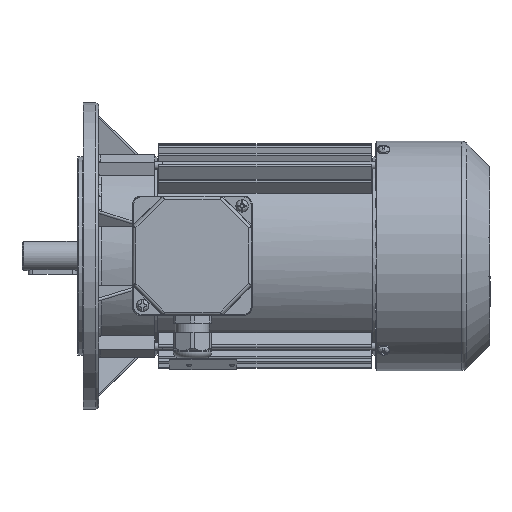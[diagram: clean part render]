
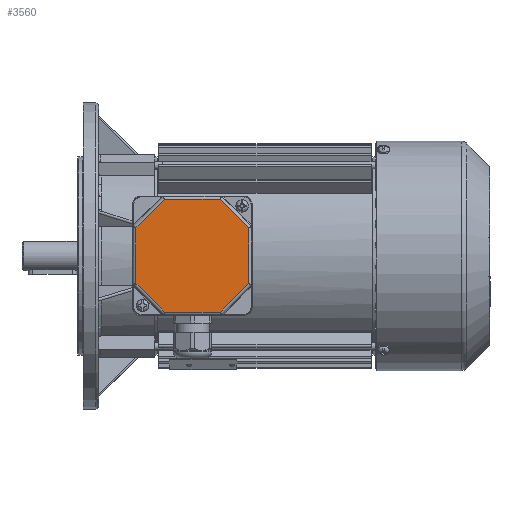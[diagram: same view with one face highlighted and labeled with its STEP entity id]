
A CAD part, top view. The second image highlights one B-rep face of the part: STEP entity #3560.
In plain terms, the highlighted planar face has unit normal (0, 0, 1).
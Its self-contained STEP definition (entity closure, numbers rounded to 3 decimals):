
#3560 = ADVANCED_FACE( '', ( #8300 ), #8301, .T. );
#8300 = FACE_OUTER_BOUND( '', #18097, .T. );
#8301 = PLANE( '', #18098 );
#18097 = EDGE_LOOP( '', ( #37679, #37680, #37681, #37682, #37683, #37684, #37685, #37686 ) );
#18098 = AXIS2_PLACEMENT_3D( '', #37687, #37688, #37689 );
#37679 = ORIENTED_EDGE( '', *, *, #55090, .T. );
#37680 = ORIENTED_EDGE( '', *, *, #54945, .T. );
#37681 = ORIENTED_EDGE( '', *, *, #53496, .T. );
#37682 = ORIENTED_EDGE( '', *, *, #55091, .T. );
#37683 = ORIENTED_EDGE( '', *, *, #55092, .T. );
#37684 = ORIENTED_EDGE( '', *, *, #55093, .T. );
#37685 = ORIENTED_EDGE( '', *, *, #55094, .T. );
#37686 = ORIENTED_EDGE( '', *, *, #55095, .T. );
#37687 = CARTESIAN_POINT( '', ( -39., 39., 12. ) );
#37688 = DIRECTION( '', ( 0., 0., 1. ) );
#37689 = DIRECTION( '', ( 1., 0., 0. ) );
#53496 = EDGE_CURVE( '', #62780, #62781, #62782, .F. );
#54945 = EDGE_CURVE( '', #65252, #62780, #65253, .T. );
#55090 = EDGE_CURVE( '', #65495, #65252, #65496, .F. );
#55091 = EDGE_CURVE( '', #62781, #65497, #65498, .T. );
#55092 = EDGE_CURVE( '', #65497, #65499, #65500, .F. );
#55093 = EDGE_CURVE( '', #65499, #65501, #65502, .T. );
#55094 = EDGE_CURVE( '', #65501, #65503, #65504, .F. );
#55095 = EDGE_CURVE( '', #65503, #65495, #65505, .T. );
#62780 = VERTEX_POINT( '', #75521 );
#62781 = VERTEX_POINT( '', #75522 );
#62782 = LINE( '', #75523, #75524 );
#65252 = VERTEX_POINT( '', #82346 );
#65253 = LINE( '', #82347, #82348 );
#65495 = VERTEX_POINT( '', #82919 );
#65496 = LINE( '', #82920, #82921 );
#65497 = VERTEX_POINT( '', #82922 );
#65498 = LINE( '', #82923, #82924 );
#65499 = VERTEX_POINT( '', #82925 );
#65500 = LINE( '', #82926, #82927 );
#65501 = VERTEX_POINT( '', #82928 );
#65502 = LINE( '', #82929, #82930 );
#65503 = VERTEX_POINT( '', #82931 );
#65504 = LINE( '', #82932, #82933 );
#65505 = LINE( '', #82934, #82935 );
#75521 = CARTESIAN_POINT( '', ( 18.255, 36.825, 12. ) );
#75522 = CARTESIAN_POINT( '', ( -18.255, 36.825, 12. ) );
#75523 = CARTESIAN_POINT( '', ( -19.069, 36.825, 12. ) );
#75524 = VECTOR( '', #101527, 1000. );
#82346 = CARTESIAN_POINT( '', ( 36.825, 18.255, 12. ) );
#82347 = CARTESIAN_POINT( '', ( 17.679, 37.401, 12. ) );
#82348 = VECTOR( '', #103186, 1000. );
#82919 = CARTESIAN_POINT( '', ( 36.825, -18.255, 12. ) );
#82920 = CARTESIAN_POINT( '', ( 36.825, 19.069, 12. ) );
#82921 = VECTOR( '', #103364, 1000. );
#82922 = CARTESIAN_POINT( '', ( -36.825, 18.255, 12. ) );
#82923 = CARTESIAN_POINT( '', ( -37.401, 17.679, 12. ) );
#82924 = VECTOR( '', #103365, 1000. );
#82925 = CARTESIAN_POINT( '', ( -36.825, -18.255, 12. ) );
#82926 = CARTESIAN_POINT( '', ( -36.825, -19.069, 12. ) );
#82927 = VECTOR( '', #103366, 1000. );
#82928 = CARTESIAN_POINT( '', ( -18.255, -36.825, 12. ) );
#82929 = CARTESIAN_POINT( '', ( -17.679, -37.401, 12. ) );
#82930 = VECTOR( '', #103367, 1000. );
#82931 = CARTESIAN_POINT( '', ( 18.255, -36.825, 12. ) );
#82932 = CARTESIAN_POINT( '', ( 19.069, -36.825, 12. ) );
#82933 = VECTOR( '', #103368, 1000. );
#82934 = CARTESIAN_POINT( '', ( 37.401, -17.679, 12. ) );
#82935 = VECTOR( '', #103369, 1000. );
#101527 = DIRECTION( '', ( 1., 0., 0. ) );
#103186 = DIRECTION( '', ( -0.707, 0.707, 0. ) );
#103364 = DIRECTION( '', ( 0., -1., 0. ) );
#103365 = DIRECTION( '', ( -0.707, -0.707, 0. ) );
#103366 = DIRECTION( '', ( 0., 1., 0. ) );
#103367 = DIRECTION( '', ( 0.707, -0.707, 0. ) );
#103368 = DIRECTION( '', ( -1., 0., 0. ) );
#103369 = DIRECTION( '', ( 0.707, 0.707, 0. ) );
